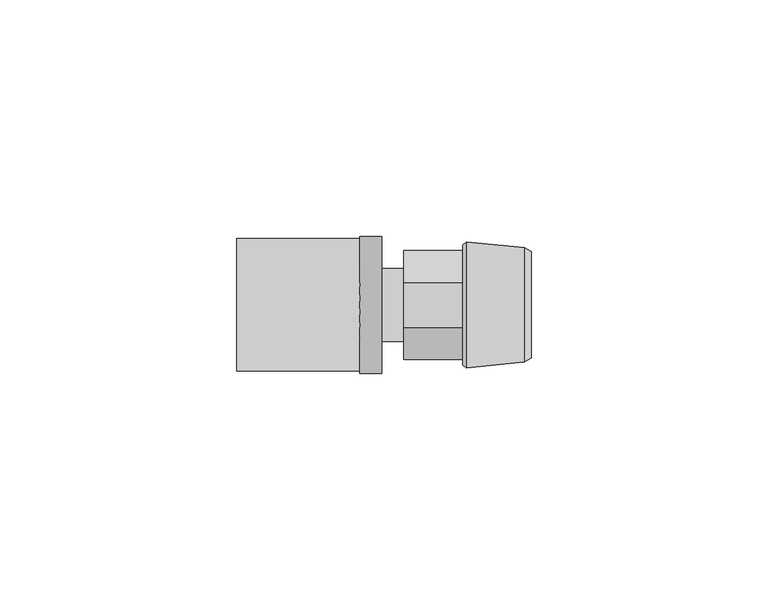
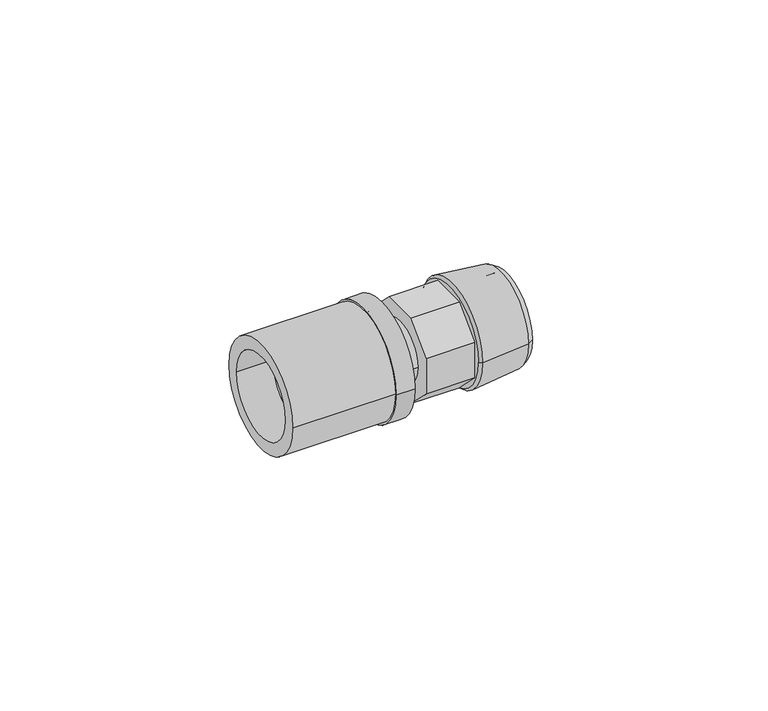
"""IFC4 building model written with IfcOpenShell, lengths in millimetres: pipe fitting geometry, FASTLOC_Adapter_LX, with external thread : FSL A C external CZ."""

from ifc_helpers import new_model, si_unit, point, frame, origin, origin_2d, place, context, project, spatial, polyline, circle_curve, trimmed, segment, composite_curve, outline, extrude, source, transform, mapped, element, save
from ifc_brep_helpers import plane_surface, cylinder_surface, revolved_surface, advanced_brep


def pipe_fitting_ee510fd7(model_context):
    return source(origin(), model_context, "Body", "SolidModel", [
        extrude(outline(composite_curve([segment(trimmed(circle_curve(origin_2d(), 14.0), [point((14.0, 0.0))], [point((-14.0, 0.0))], False, "CARTESIAN"), True, "CONTINUOUS"), segment(trimmed(circle_curve(origin_2d(), 14.0), [point((-14.0, 0.0))], [point((14.0, 0.0))], False, "CARTESIAN"), True, "CONTINUOUS")], self_intersect=False), holes=[composite_curve([segment(trimmed(circle_curve(origin_2d(), 10.7), [point((10.7, 0.0))], [point((-10.7, 0.0))], True, "CARTESIAN"), True, "CONTINUOUS"), segment(trimmed(circle_curve(origin_2d(), 10.7), [point((-10.7, 0.0))], [point((10.7, 0.0))], True, "CARTESIAN"), True, "CONTINUOUS")], self_intersect=False)]), frame((-35.3, 0.0, 0.0), z_axis=(1.0, 0.0, 0.0), x_axis=(0.0, 1.0, 0.0)), (0.0, 0.0, 1.0), 26.0),
        advanced_brep(
        [(-9.3, -14.5, 0.0), (-9.3, 14.5, 0.0), (-4.6, 14.5, 0.0), (-4.6, -14.5, 0.0), (-26.3, -11.85, 0.0), (-26.3, 11.85, 0.0), (-9.3, 11.85, 0.0), (-9.3, -11.85, 0.0), (-4.6, -10.15, 0.0), (-4.6, 10.15, 0.0), (-26.3, 10.15, 0.0), (-26.3, -10.15, 0.0)],
        [
            (0, 1, circle_curve(frame((-9.3, 0.0, 0.0), z_axis=(1.0, 0.0, 0.0), x_axis=(0.0, 1.0, 0.0)), 14.5)),
            (1, 2),
            (2, 3, circle_curve(frame((-4.6, 0.0, 0.0), z_axis=(-1.0, 0.0, 0.0), x_axis=(0.0, 1.0, 0.0)), 14.5)),
            (3, 0),
            (4, 5, circle_curve(frame((-26.3, 0.0, 0.0), z_axis=(1.0, 0.0, 0.0), x_axis=(0.0, 1.0, 0.0)), 11.85)),
            (5, 6),
            (6, 7, circle_curve(frame((-9.3, 0.0, 0.0), z_axis=(-1.0, 0.0, 0.0), x_axis=(0.0, 1.0, 0.0)), 11.85)),
            (7, 4),
            (8, 9, circle_curve(frame((-4.6, 0.0, 0.0), z_axis=(1.0, 0.0, 0.0), x_axis=(0.0, 1.0, 0.0)), 10.15)),
            (9, 10),
            (10, 11, circle_curve(frame((-26.3, 0.0, 0.0), z_axis=(-1.0, 0.0, 0.0), x_axis=(0.0, 1.0, 0.0)), 10.15)),
            (11, 8),
            (1, 0, circle_curve(frame((-9.3, 0.0, 0.0), z_axis=(1.0, 0.0, 0.0), x_axis=(0.0, -1.0, 0.0)), 14.5)),
            (3, 2, circle_curve(frame((-4.6, 0.0, 0.0), z_axis=(-1.0, 0.0, 0.0), x_axis=(0.0, -1.0, 0.0)), 14.5)),
            (6, 7, circle_curve(frame((-9.3, 0.0, 0.0), z_axis=(1.0, 0.0, 0.0), x_axis=(0.0, -1.0, 0.0)), 11.85)),
            (5, 4, circle_curve(frame((-26.3, 0.0, 0.0), z_axis=(1.0, 0.0, 0.0), x_axis=(0.0, -1.0, 0.0)), 11.85)),
            (10, 11, circle_curve(frame((-26.3, 0.0, 0.0), z_axis=(1.0, 0.0, 0.0), x_axis=(0.0, -1.0, 0.0)), 10.15)),
            (9, 8, circle_curve(frame((-4.6, 0.0, 0.0), z_axis=(1.0, 0.0, 0.0), x_axis=(0.0, -1.0, 0.0)), 10.15)),
        ],
        [
            cylinder_surface(frame((-4.6, 0.0, 0.0), z_axis=(-1.0, 0.0, 0.0), x_axis=(0.0, 1.0, 0.0)), 14.5),
            cylinder_surface(frame((-4.6, 0.0, 0.0), z_axis=(-1.0, 0.0, 0.0), x_axis=(0.0, 1.0, 0.0)), 11.85),
            revolved_surface(polyline([(-26.300000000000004, 10.15, 0.0), (-4.6, 10.15, 0.0)]), (-4.6, 0.0, 0.0), (-1.0, 0.0, 0.0)),
            cylinder_surface(frame((-4.6, 0.0, 0.0), z_axis=(-1.0, 0.0, 0.0), x_axis=(0.0, -1.0, 0.0)), 14.5),
            plane_surface(frame((-9.3, 0.0, 0.0), z_axis=(-1.0, 0.0, 0.0), x_axis=(0.0, -1.0, 0.0))),
            cylinder_surface(frame((-4.6, 0.0, 0.0), z_axis=(-1.0, 0.0, 0.0), x_axis=(0.0, -1.0, 0.0)), 11.85),
            plane_surface(frame((-26.3, 0.0, 0.0), z_axis=(-1.0, 0.0, 0.0), x_axis=(0.0, -1.0, 0.0))),
            revolved_surface(polyline([(-26.300000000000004, -10.15, 0.0), (-4.6, -10.15, 0.0)]), (-4.6, 0.0, 0.0), (-1.0, 0.0, 0.0)),
            plane_surface(frame((-4.6, 0.0, 0.0), z_axis=(1.0, 0.0, 0.0), x_axis=(0.0, -1.0, 0.0))),
        ],
        [
            (0, [[1, 2, 3, 4]]),
            (1, [[5, 6, 7, 8]]),
            (2, [[9, 10, 11, 12]]),
            (3, [[13, -4, 14, -2]]),
            (4, [[-13, -1], [15, -7]]),
            (5, [[16, -8, -15, -6]]),
            (6, [[-16, -5], [17, -11]]),
            (7, [[18, -12, -17, -10]]),
            (8, [[-14, -3], [-18, -9]]),
        ],
    ),
        advanced_brep(
        [(-9.3, 7.75, 0.0), (-9.3, -7.75, 0.0), (-26.7, -7.75, 0.0), (-26.7, 7.75, 0.0), (-6.6, 8.8, 0.0), (-6.6, -8.8, 0.0), (-9.3, -8.8, 0.0), (-9.3, 8.8, 0.0), (0.0, 7.75, 0.0), (0.0, -7.75, 0.0), (-6.6, -7.75, 0.0), (-6.6, 7.75, 0.0), (-26.7, 5.75, 0.0), (-26.7, -5.75, 0.0), (0.0, -5.75, 0.0), (0.0, 5.75, 0.0)],
        [
            (0, 1, circle_curve(frame((-9.3, 0.0, 0.0), z_axis=(-1.0, 0.0, 0.0), x_axis=(0.0, -1.0, 0.0)), 7.75)),
            (1, 2),
            (2, 3, circle_curve(frame((-26.7, 0.0, 0.0), z_axis=(1.0, 0.0, 0.0), x_axis=(0.0, -1.0, 0.0)), 7.75)),
            (3, 0),
            (4, 5, circle_curve(frame((-6.6, 0.0, 0.0), z_axis=(-1.0, 0.0, 0.0), x_axis=(0.0, -1.0, 0.0)), 8.8)),
            (5, 6),
            (6, 7, circle_curve(frame((-9.3, 0.0, 0.0), z_axis=(1.0, 0.0, 0.0), x_axis=(0.0, -1.0, 0.0)), 8.8)),
            (7, 4),
            (8, 9, circle_curve(frame((0.0, 0.0, 0.0), z_axis=(-1.0, 0.0, 0.0), x_axis=(0.0, -1.0, 0.0)), 7.75)),
            (9, 10),
            (10, 11, circle_curve(frame((-6.6, 0.0, 0.0), z_axis=(1.0, 0.0, 0.0), x_axis=(0.0, -1.0, 0.0)), 7.75)),
            (11, 8),
            (12, 13, circle_curve(frame((-26.7, 0.0, 0.0), z_axis=(-1.0, 0.0, 0.0), x_axis=(0.0, -1.0, 0.0)), 5.75)),
            (13, 14),
            (14, 15, circle_curve(frame((0.0, 0.0, 0.0), z_axis=(1.0, 0.0, 0.0), x_axis=(0.0, -1.0, 0.0)), 5.75)),
            (15, 12),
            (2, 3, circle_curve(frame((-26.7, 0.0, 0.0), z_axis=(-1.0, 0.0, 0.0), x_axis=(0.0, 1.0, 0.0)), 7.75)),
            (12, 13, circle_curve(frame((-26.7, 0.0, 0.0), z_axis=(1.0, 0.0, 0.0), x_axis=(0.0, 1.0, 0.0)), 5.75)),
            (1, 0, circle_curve(frame((-9.3, 0.0, 0.0), z_axis=(-1.0, 0.0, 0.0), x_axis=(0.0, 1.0, 0.0)), 7.75)),
            (6, 7, circle_curve(frame((-9.3, 0.0, 0.0), z_axis=(-1.0, 0.0, 0.0), x_axis=(0.0, 1.0, 0.0)), 8.8)),
            (5, 4, circle_curve(frame((-6.6, 0.0, 0.0), z_axis=(-1.0, 0.0, 0.0), x_axis=(0.0, 1.0, 0.0)), 8.8)),
            (10, 11, circle_curve(frame((-6.6, 0.0, 0.0), z_axis=(-1.0, 0.0, 0.0), x_axis=(0.0, 1.0, 0.0)), 7.75)),
            (9, 8, circle_curve(frame((0.0, 0.0, 0.0), z_axis=(-1.0, 0.0, 0.0), x_axis=(0.0, 1.0, 0.0)), 7.75)),
            (14, 15, circle_curve(frame((0.0, 0.0, 0.0), z_axis=(-1.0, 0.0, 0.0), x_axis=(0.0, 1.0, 0.0)), 5.75)),
        ],
        [
            cylinder_surface(frame((0.0, 0.0, 0.0), z_axis=(1.0, 0.0, 0.0), x_axis=(0.0, -1.0, 0.0)), 7.75),
            cylinder_surface(frame((0.0, 0.0, 0.0), z_axis=(1.0, 0.0, 0.0), x_axis=(0.0, -1.0, 0.0)), 8.8),
            revolved_surface(polyline([(0.0, -5.75, 0.0), (-26.7, -5.75, 0.0)]), (0.0, 0.0, 0.0), (1.0, 0.0, 0.0)),
            plane_surface(frame((-26.7, 0.0, 0.0), z_axis=(-1.0, 0.0, 0.0), x_axis=(0.0, 1.0, 0.0))),
            cylinder_surface(frame((0.0, 0.0, 0.0), z_axis=(1.0, 0.0, 0.0), x_axis=(0.0, 1.0, 0.0)), 7.75),
            plane_surface(frame((-9.3, 0.0, 0.0), z_axis=(-1.0, 0.0, 0.0), x_axis=(0.0, 1.0, 0.0))),
            cylinder_surface(frame((0.0, 0.0, 0.0), z_axis=(1.0, 0.0, 0.0), x_axis=(0.0, 1.0, 0.0)), 8.8),
            plane_surface(frame((-6.6, 0.0, 0.0), z_axis=(1.0, 0.0, 0.0), x_axis=(0.0, 1.0, 0.0))),
            plane_surface(frame((0.0, 0.0, 0.0), z_axis=(1.0, 0.0, 0.0), x_axis=(0.0, 1.0, 0.0))),
            revolved_surface(polyline([(0.0, 5.75, 0.0), (-26.7, 5.75, 0.0)]), (0.0, 0.0, 0.0), (1.0, 0.0, 0.0)),
        ],
        [
            (0, [[1, 2, 3, 4]]),
            (1, [[5, 6, 7, 8]]),
            (0, [[9, 10, 11, 12]]),
            (2, [[13, 14, 15, 16]]),
            (3, [[17, -3], [18, -13]]),
            (4, [[19, -4, -17, -2]]),
            (5, [[20, -7], [-19, -1]]),
            (6, [[21, -8, -20, -6]]),
            (7, [[-21, -5], [22, -11]]),
            (4, [[23, -12, -22, -10]]),
            (8, [[-23, -9], [24, -15]]),
            (9, [[-18, -16, -24, -14]]),
        ],
    ),
        advanced_brep(
        [(13.6032803, 9.5, 0.0), (13.6032803, -9.5, 0.0), (27.0, -9.5, 0.0), (27.0, 9.5, 0.0), (12.5, 8.3967197, 0.0), (12.5, -8.3967197, 0.0), (13.2406902, 13.3, 0.0), (13.2406902, -13.3, 0.0), (12.5, -12.7, 0.0), (12.5, 12.7, 0.0), (25.5000007, 12.1, 0.0), (25.5000007, -12.1, 0.0), (27.0, 11.25, 0.0), (27.0, -11.25, 0.0)],
        [
            (0, 1, circle_curve(frame((13.6032803, 0.0, 0.0), z_axis=(-1.0, 0.0, 0.0), x_axis=(0.0, -1.0, 0.0)), 9.5)),
            (1, 2),
            (2, 3, circle_curve(frame((27.0, 0.0, 0.0), z_axis=(1.0, 0.0, 0.0), x_axis=(0.0, -1.0, 0.0)), 9.5)),
            (3, 0),
            (4, 5, circle_curve(frame((12.5, 0.0, 0.0), z_axis=(-1.0, 0.0, 0.0), x_axis=(0.0, -1.0, 0.0)), 8.3967197)),
            (5, 1),
            (0, 4),
            (6, 7, circle_curve(frame((13.2406902, 0.0, 0.0), z_axis=(-1.0, 0.0, 0.0), x_axis=(0.0, -1.0, 0.0)), 13.3)),
            (7, 8),
            (8, 9, circle_curve(frame((12.5, 0.0, 0.0), z_axis=(1.0, 0.0, 0.0), x_axis=(0.0, -1.0, 0.0)), 12.7)),
            (9, 6),
            (10, 11, circle_curve(frame((25.5000007, 0.0, 0.0), z_axis=(-1.0, 0.0, 0.0), x_axis=(0.0, -1.0, 0.0)), 12.1)),
            (11, 7),
            (6, 10),
            (12, 13, circle_curve(frame((27.0, 0.0, 0.0), z_axis=(-1.0, 0.0, 0.0), x_axis=(0.0, -1.0, 0.0)), 11.25)),
            (13, 11),
            (10, 12),
            (1, 0, circle_curve(frame((13.6032803, 0.0, 0.0), z_axis=(-1.0, 0.0, 0.0), x_axis=(0.0, 1.0, 0.0)), 9.5)),
            (3, 2, circle_curve(frame((27.0, 0.0, 0.0), z_axis=(1.0, 0.0, 0.0), x_axis=(0.0, 1.0, 0.0)), 9.5)),
            (5, 4, circle_curve(frame((12.5, 0.0, 0.0), z_axis=(-1.0, 0.0, 0.0), x_axis=(0.0, 1.0, 0.0)), 8.3967197)),
            (8, 9, circle_curve(frame((12.5, 0.0, 0.0), z_axis=(-1.0, 0.0, 0.0), x_axis=(0.0, 1.0, 0.0)), 12.7)),
            (7, 6, circle_curve(frame((13.2406902, 0.0, 0.0), z_axis=(-1.0, 0.0, 0.0), x_axis=(0.0, 1.0, 0.0)), 13.3)),
            (11, 10, circle_curve(frame((25.5000007, 0.0, 0.0), z_axis=(-1.0, 0.0, 0.0), x_axis=(0.0, 1.0, 0.0)), 12.1)),
            (13, 12, circle_curve(frame((27.0, 0.0, 0.0), z_axis=(-1.0, 0.0, 0.0), x_axis=(0.0, 1.0, 0.0)), 11.25)),
        ],
        [
            revolved_surface(polyline([(27.0, -9.5, 0.0), (13.6032803, -9.5, 0.0)]), (0.0, 0.0, 0.0), (1.0, 0.0, 0.0)),
            revolved_surface(polyline([(13.6032803, -9.5, 0.0), (12.5, -8.3967197, 0.0)]), (0.0, 0.0, 0.0), (1.0, 0.0, 0.0)),
            revolved_surface(polyline([(12.5, -12.7, 0.0), (13.2406902, -13.3, 0.0)]), (0.0, 0.0, 0.0), (1.0, 0.0, 0.0)),
            revolved_surface(polyline([(13.2406902, -13.3, 0.0), (25.5000007, -12.1, 0.0)]), (0.0, 0.0, 0.0), (1.0, 0.0, 0.0)),
            revolved_surface(polyline([(25.5000007, -12.1, 0.0), (27.0, -11.25, 0.0)]), (0.0, 0.0, 0.0), (1.0, 0.0, 0.0)),
            revolved_surface(polyline([(27.0, 9.5, 0.0), (13.6032803, 9.5, 0.0)]), (0.0, 0.0, 0.0), (1.0, 0.0, 0.0)),
            revolved_surface(polyline([(13.6032803, 9.5, 0.0), (12.5, 8.3967197, 0.0)]), (0.0, 0.0, 0.0), (1.0, 0.0, 0.0)),
            plane_surface(frame((12.5, 0.0, 0.0), z_axis=(-1.0, 0.0, 0.0), x_axis=(0.0, 1.0, 0.0))),
            revolved_surface(polyline([(12.5, 12.7, 0.0), (13.2406902, 13.3, 0.0)]), (0.0, 0.0, 0.0), (1.0, 0.0, 0.0)),
            revolved_surface(polyline([(13.2406902, 13.3, 0.0), (25.5000007, 12.1, 0.0)]), (0.0, 0.0, 0.0), (1.0, 0.0, 0.0)),
            revolved_surface(polyline([(25.5000007, 12.1, 0.0), (27.0, 11.25, 0.0)]), (0.0, 0.0, 0.0), (1.0, 0.0, 0.0)),
            plane_surface(frame((27.0, 0.0, 0.0), z_axis=(1.0, 0.0, 0.0), x_axis=(0.0, 1.0, 0.0))),
        ],
        [
            (0, [[1, 2, 3, 4]]),
            (1, [[5, 6, -1, 7]]),
            (2, [[8, 9, 10, 11]]),
            (3, [[12, 13, -8, 14]]),
            (4, [[15, 16, -12, 17]]),
            (5, [[18, -4, 19, -2]]),
            (6, [[20, -7, -18, -6]]),
            (7, [[21, -10], [-20, -5]]),
            (8, [[22, -11, -21, -9]]),
            (9, [[23, -14, -22, -13]]),
            (10, [[24, -17, -23, -16]]),
            (11, [[-24, -15], [-19, -3]]),
        ],
    ),
        extrude(outline(polyline([(-11.5, 4.763456), (-4.763456, 11.5), (4.763456, 11.5), (11.5, 4.763456), (11.5, -4.763456), (4.763456, -11.5), (-4.763456, -11.5), (-11.5, -4.763456), (-11.5, 4.763456)])), frame((0.0, 0.0, 0.0), z_axis=(1.0, 0.0, 0.0), x_axis=(0.0, 1.0, 0.0)), (0.0, 0.0, 1.0), 12.5),
    ])


if __name__ == "__main__":
    model = new_model("IFC4")
    model_context = context("Model", 3, world=origin())
    ifc_project = project(units=[si_unit("LENGTHUNIT", "METRE", prefix="MILLI")], contexts=[model_context])
    site = spatial("IfcSite", under=ifc_project)
    building = spatial("IfcBuilding", under=site)
    placement = place(None, origin())
    pipe_fitting_shape = pipe_fitting_ee510fd7(model_context)
    element("IfcPipeFitting", 1, ObjectType="FASTLOC_Adapter_LX, with external thread : FSL A C external CZ", at=placement, inside=building, context=model_context, shape_type="MappedRepresentation", body=[
        mapped(pipe_fitting_shape, transform((0.0, 0.0, 0.0), x_axis=(1.0, 0.0, 0.0), y_axis=(0.0, 1.0, 0.0), z_axis=(0.0, 0.0, 1.0))),
    ])
    save(model, "model.ifc")
